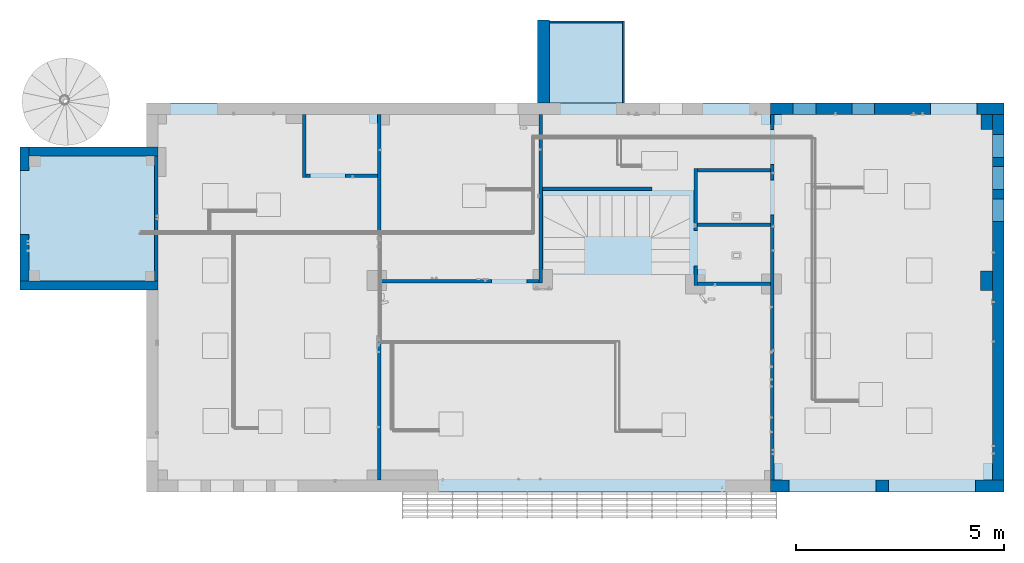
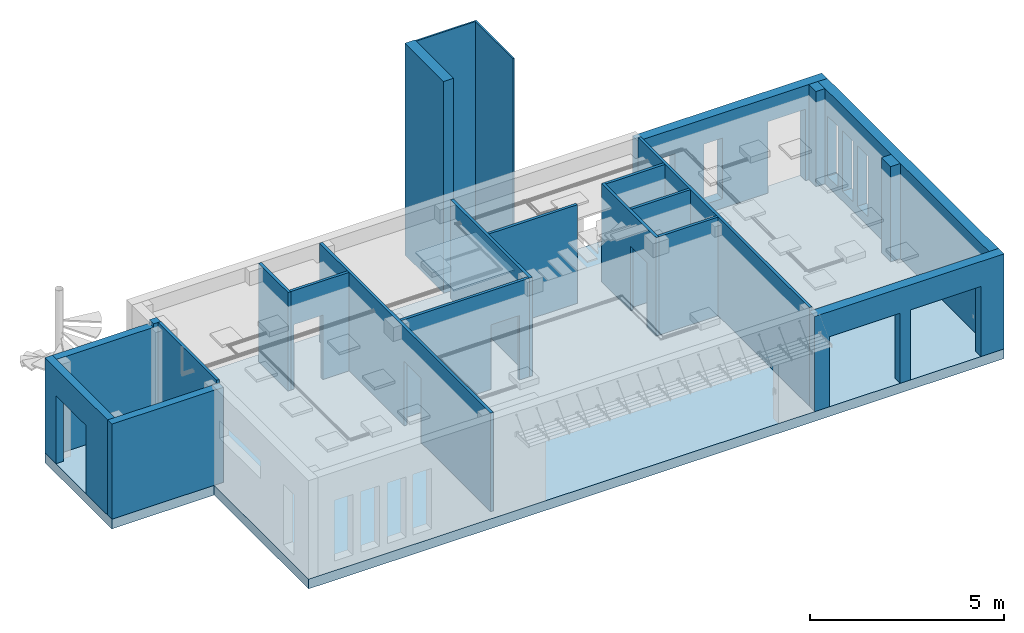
# One storey, part 2 of 24: 21 walls, 2 columns, 2 slabs, 16 openings.
"""IFC2X3 building model written with IfcOpenShell, lengths in millimetres."""

from ifc_helpers import new_model, entity, si_unit, converted_unit, derived_unit, direction, frame, frame_2d, origin, origin_2d_with_axis, place, context, subcontext, project, spatial, polyline, rectangle, outline, extrude, source, transform, mapped, material, layer, layer_set, layer_usage, type_object, type_shapes, element, save


model = new_model("IFC2X3")

# Units and contexts
model_context = context("Model", 3, precision=0.01, world=origin(), true_north=direction((6.123031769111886e-17, 1.0)))
body_context = subcontext(model_context, "Body", "Model", "MODEL_VIEW")
ifc_project = project(units=[si_unit("LENGTHUNIT", "METRE", prefix="MILLI"), si_unit("AREAUNIT", "SQUARE_METRE"), si_unit("VOLUMEUNIT", "CUBIC_METRE"), converted_unit("PLANEANGLEUNIT", "DEGREE", entity("IfcRatioMeasure", 0.017453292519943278), si_unit("PLANEANGLEUNIT", "RADIAN"), dimensions=[0, 0, 0, 0, 0, 0, 0]), si_unit("MASSUNIT", "GRAM", prefix="KILO"), derived_unit("MASSDENSITYUNIT", [(si_unit("MASSUNIT", "GRAM", prefix="KILO"), 1), (si_unit("LENGTHUNIT", "METRE"), -3)]), derived_unit("MOMENTOFINERTIAUNIT", [(si_unit("LENGTHUNIT", "METRE"), 4)]), si_unit("TIMEUNIT", "SECOND"), si_unit("FREQUENCYUNIT", "HERTZ"), si_unit("THERMODYNAMICTEMPERATUREUNIT", "DEGREE_CELSIUS"), derived_unit("THERMALTRANSMITTANCEUNIT", [(si_unit("MASSUNIT", "GRAM", prefix="KILO"), 1), (si_unit("THERMODYNAMICTEMPERATUREUNIT", "KELVIN"), -1), (si_unit("TIMEUNIT", "SECOND"), -3)]), derived_unit("VOLUMETRICFLOWRATEUNIT", [(si_unit("LENGTHUNIT", "METRE"), 3), (si_unit("TIMEUNIT", "SECOND"), -1)]), derived_unit("MASSFLOWRATEUNIT", [(si_unit("MASSUNIT", "GRAM", prefix="KILO"), 1), (si_unit("TIMEUNIT", "SECOND"), -1)]), derived_unit("ROTATIONALFREQUENCYUNIT", [(si_unit("TIMEUNIT", "SECOND"), -1)]), si_unit("ELECTRICCURRENTUNIT", "AMPERE"), si_unit("ELECTRICVOLTAGEUNIT", "VOLT"), si_unit("POWERUNIT", "WATT"), si_unit("FORCEUNIT", "NEWTON", prefix="KILO"), si_unit("ILLUMINANCEUNIT", "LUX"), si_unit("LUMINOUSFLUXUNIT", "LUMEN"), si_unit("LUMINOUSINTENSITYUNIT", "CANDELA"), derived_unit("USERDEFINED", [(si_unit("MASSUNIT", "GRAM", prefix="KILO"), -1), (si_unit("LENGTHUNIT", "METRE"), -2), (si_unit("TIMEUNIT", "SECOND"), 3), (si_unit("LUMINOUSFLUXUNIT", "LUMEN"), 1)]), derived_unit("SOUNDPOWERUNIT", [(si_unit("MASSUNIT", "GRAM", prefix="KILO"), 1), (si_unit("LENGTHUNIT", "METRE"), 2), (si_unit("TIMEUNIT", "SECOND"), -3)]), derived_unit("SOUNDPRESSUREUNIT", [(si_unit("MASSUNIT", "GRAM", prefix="KILO"), 1), (si_unit("LENGTHUNIT", "METRE"), -1), (si_unit("TIMEUNIT", "SECOND"), -2)]), derived_unit("LINEARVELOCITYUNIT", [(si_unit("LENGTHUNIT", "METRE"), 1), (si_unit("TIMEUNIT", "SECOND"), -1)]), si_unit("PRESSUREUNIT", "PASCAL"), derived_unit("USERDEFINED", [(si_unit("LENGTHUNIT", "METRE"), -2), (si_unit("MASSUNIT", "GRAM", prefix="KILO"), 1), (si_unit("TIMEUNIT", "SECOND"), -2)]), derived_unit("LINEARFORCEUNIT", [(si_unit("MASSUNIT", "GRAM", prefix="KILO"), 1), (si_unit("LENGTHUNIT", "METRE"), 1), (si_unit("TIMEUNIT", "SECOND"), -2), (si_unit("LENGTHUNIT", "METRE"), -1)]), derived_unit("PLANARFORCEUNIT", [(si_unit("MASSUNIT", "GRAM", prefix="KILO"), 1), (si_unit("LENGTHUNIT", "METRE"), 1), (si_unit("TIMEUNIT", "SECOND"), -2), (si_unit("LENGTHUNIT", "METRE"), -2)])], contexts=[model_context])

# Site, building, storey
site_placement = place(None, origin())
site = spatial("IfcSite", under=ifc_project, at=site_placement, Name="Default", CompositionType="ELEMENT")
building_placement = place(site_placement, origin())
building = spatial("IfcBuilding", under=site, at=building_placement, CompositionType="ELEMENT")
storey_placement = place(building_placement, origin())
storey = spatial("IfcBuildingStorey", under=building, at=storey_placement, Name="Level 1", CompositionType="ELEMENT", Elevation=0.0)

# Columns
ifc_material_1 = material(Name="FIBRAN gyps SUPER")
column_type_1 = type_object("IfcColumnType", Name="M_Rectangular Column:475 x 475mm 32126:475 x 475mm 32126 : M_Rectangular Column:475 x 475mm 32126", PredefinedType="COLUMN", material=ifc_material_1)
shared_shape_1 = source(origin(), body_context, "Body", "SweptSolid", [
    extrude(rectangle(XDim=366.6241435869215, YDim=270.4189925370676, at=frame_2d((2.7000623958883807e-13, 1.0800249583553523e-12), x_axis=(1.0, 0.0))), frame((10812.1303359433, 4827.84944147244, 0.0), z_axis=(0.0, 0.0, 1.0), x_axis=(0.0, -1.0, 0.0)), (0.0, 0.0, 1.0), 2985.0),
])
type_shapes(column_type_1, [shared_shape_1])
column_1_placement = place(storey_placement, origin())
element("IfcColumn", 1, at=column_1_placement, inside=storey, type_object=column_type_1, material=ifc_material_1, Name="M_Rectangular Column:475 x 475mm", ObjectType="M_Rectangular Column:475 x 475mm", context=body_context, shape_type="MappedRepresentation", body=[
    mapped(shared_shape_1, transform((0.0, 0.0, 0.0), scale=1.0)),
])
column_type_2 = type_object("IfcColumnType", Name="M_Rectangular Column:475 x 475mm 32096:475 x 475mm 32096 : M_Rectangular Column:475 x 475mm 32096", PredefinedType="COLUMN", material=ifc_material_1)
shared_shape_2 = source(origin(), body_context, "Body", "SweptSolid", [
    extrude(rectangle(XDim=475.00000000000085, YDim=290.4189925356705, at=origin_2d_with_axis()), frame((10802.130335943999, 1004.037369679, 0.0), z_axis=(0.0, 0.0, 1.0), x_axis=(0.0, -1.0, 0.0)), (0.0, 0.0, 1.0), 2985.0),
])
type_shapes(column_type_2, [shared_shape_2])
column_2_placement = place(storey_placement, origin())
element("IfcColumn", 2, at=column_2_placement, inside=storey, type_object=column_type_2, material=ifc_material_1, Name="M_Rectangular Column:475 x 475mm", ObjectType="M_Rectangular Column:475 x 475mm", context=body_context, shape_type="MappedRepresentation", body=[
    mapped(shared_shape_2, transform((0.0, 0.0, 0.0), scale=1.0)),
])

# Slabs
ifc_material_2 = material(Name="Ceramic tiles")
ifc_layer_1 = layer(ifc_material_2, 5.0)
ifc_material_3 = material(Name="cement mortar")
ifc_layer_2 = layer(ifc_material_3, 50.0)
ifc_material_4 = material(Name="Reinforced Concrete 2%")
ifc_layer_3 = layer(ifc_material_4, 150.0)
ifc_material_5 = material(Name="FIBRAN xps seismic 400")
ifc_layer_4 = layer(ifc_material_5, 50.0)
ifc_layer_5 = layer(ifc_material_5, 50.0)
ifc_layer_set_1 = layer_set([ifc_layer_1, ifc_layer_2, ifc_layer_3, ifc_layer_4, ifc_layer_5], Name="Floor:Floor:Floor:Concrete-Domestic My floor")
ifc_layer_usage_1 = layer_usage(ifc_layer_set_1, "AXIS3", "POSITIVE", 0.0)
slab_type_1 = type_object("IfcSlabType", Name="Floor:Floor:Floor:Concrete-Domestic My floor", PredefinedType="FLOOR", material=ifc_layer_set_1)
slab_1_placement = place(storey_placement, origin())
element("IfcSlab", 3, at=slab_1_placement, inside=storey, type_object=slab_type_1, material=ifc_layer_usage_1, Name="Floor:Floor:Floor:Concrete-Domestic My floor", ObjectType="Floor:Floor:Floor:Concrete-Domestic My floor", PredefinedType="FLOOR", context=body_context, shape_type="SweptSolid", body=[
    extrude(outline(polyline([(-772.1288845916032, -7443.206044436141), (2671.3866537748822, -7443.206044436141), (2671.3866537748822, -4403.156770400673), (3733.8711154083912, -4403.156770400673), (3733.8711154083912, 16249.519585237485), (-5633.128884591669, 16249.51958523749), (-5633.128884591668, -4403.156770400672), (-772.1288845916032, -4403.156770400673), (-772.1288845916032, -7443.206044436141)])), frame((-5022.179753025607, 1557.2903978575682, 0.0), z_axis=(0.0, 0.0, -1.0), x_axis=(0.0, 1.0, 0.0)), (0.0, 0.0, 1.0), 305.00000000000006),
])
ifc_material_6 = material(Name="Exterior Tread Stair")
ifc_layer_6 = layer(ifc_material_6, 50.0)
ifc_layer_set_2 = layer_set([ifc_layer_6], Name="Floor:Floor:Floor:My metal deck floor")
ifc_layer_usage_2 = layer_usage(ifc_layer_set_2, "AXIS3", "POSITIVE", 0.0)
slab_type_2 = type_object("IfcSlabType", Name="Floor:Floor:Floor:My metal deck floor", PredefinedType="FLOOR", material=ifc_layer_set_2)
slab_2_placement = place(storey_placement, origin())
element("IfcSlab", 4, at=slab_2_placement, inside=storey, type_object=slab_type_2, material=ifc_layer_usage_2, Name="Floor:Floor:Floor:My metal deck floor", ObjectType="Floor:Floor:Floor:My metal deck floor", PredefinedType="FLOOR", context=body_context, shape_type="SweptSolid", body=[
    extrude(rectangle(XDim=1972.3825425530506, YDim=1805.5917254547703, at=frame_2d((0.0, -1.7053025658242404e-13), x_axis=(1.0, 0.0))), frame((1192.3273607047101, 6277.35278454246, 0.0), z_axis=(0.0, 0.0, -1.0), x_axis=(0.0, 1.0, 0.0)), (0.0, 0.0, 1.0), 50.0),
])

# Wall, openings
ifc_material_7 = material(Name="Finishing Coating")
ifc_layer_7 = layer(ifc_material_7, 10.0)
ifc_layer_8 = layer(ifc_material_7, 10.0)
ifc_material_8 = material(Name="FIBRAN GEO BP Etics")
ifc_layer_9 = layer(ifc_material_8, 160.0)
ifc_material_9 = material(Name="Lightweight Perlite Concrete")
ifc_layer_10 = layer(ifc_material_9, 90.0)
ifc_layer_11 = layer(ifc_material_7, 10.0)
ifc_layer_set_3 = layer_set([ifc_layer_7, ifc_layer_8, ifc_layer_9, ifc_layer_10, ifc_layer_11], Name="Basic Wall:Basic Wall:Basic Wall:My exterior wall 280mm")
ifc_layer_usage_3 = layer_usage(ifc_layer_set_3, "AXIS2", "NEGATIVE", 140.0)
wall_type_1 = type_object("IfcWallType", Name="Basic Wall:Basic Wall:Basic Wall:My exterior wall 280mm", PredefinedType="STANDARD", material=ifc_layer_set_3)
wall_1_placement = place(storey_placement, frame((5605.71779323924, 5151.16151326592, 0.0)))
wall_1 = element("IfcWallStandardCase", 5, at=wall_1_placement, inside=storey, type_object=wall_type_1, material=ifc_layer_usage_3, Name="Basic Wall:My exterior wall 280mm", ObjectType="Basic Wall:My exterior wall 280mm", context=body_context, shape_type="SweptSolid", body=[
    extrude(rectangle(XDim=5621.622038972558, YDim=280.0000000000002, at=frame_2d((2810.811019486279, -5.400124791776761e-13), x_axis=(1.0, 0.0))), origin(), (0.0, 0.0, 1.0), 2985.0),
])
opening_1_placement = place(wall_1_placement, origin())
element("IfcOpeningElement", 6, at=opening_1_placement, cuts=wall_1, Name="Basic Wall:My exterior wall 280mm", ObjectType="Opening", context=body_context, shape_type="SweptSolid", body=[
    extrude(rectangle(XDim=2241.6, YDim=1121.6000000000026, at=frame_2d((0.0, -1.0800249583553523e-12), x_axis=(1.0, 0.0))), frame((4412.314564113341, -140.0, 1120.8), z_axis=(0.0, 1.0, 0.0), x_axis=(0.0, 0.0, -1.0)), (0.0, 0.0, 1.0), 279.99999999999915),
])
opening_2_placement = place(wall_1_placement, origin())
element("IfcOpeningElement", 7, at=opening_2_placement, cuts=wall_1, Name="Basic Wall:My exterior wall 280mm", ObjectType="Opening", context=body_context, shape_type="SweptSolid", body=[
    extrude(rectangle(XDim=1900.0000000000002, YDim=549.9999999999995, at=frame_2d((5.684341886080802e-14, -5.400124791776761e-13), x_axis=(1.0, 0.0))), frame((816.0, -140.0, 1250.0), z_axis=(0.0, 1.0, 0.0), x_axis=(0.0, 0.0, -1.0)), (0.0, 0.0, 1.0), 279.99999999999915),
])
opening_3_placement = place(wall_1_placement, origin())
element("IfcOpeningElement", 8, at=opening_3_placement, cuts=wall_1, Name="Basic Wall:My exterior wall 280mm", ObjectType="Opening", context=body_context, shape_type="SweptSolid", body=[
    extrude(rectangle(XDim=1900.0000000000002, YDim=549.9999999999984, at=frame_2d((5.684341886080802e-14, 0.0), x_axis=(1.0, 0.0))), frame((2233.137235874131, -140.0, 1250.0), z_axis=(0.0, 1.0, 0.0), x_axis=(0.0, 0.0, -1.0)), (0.0, 0.0, 1.0), 279.99999999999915),
])

ifc_layer_usage_4 = layer_usage(ifc_layer_set_3, "AXIS2", "NEGATIVE", 140.0)
wall_2_placement = place(storey_placement, frame((11227.339832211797, -3935.838486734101, 0.0), z_axis=(0.0, 0.0, 1.0), x_axis=(-1.0, 0.0, 0.0)))
wall_2 = element("IfcWallStandardCase", 9, at=wall_2_placement, inside=storey, type_object=wall_type_1, material=ifc_layer_usage_4, Name="Basic Wall:My exterior wall 280mm", ObjectType="Basic Wall:My exterior wall 280mm", context=body_context, shape_type="SweptSolid", body=[
    extrude(rectangle(XDim=5621.622038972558, YDim=280.0000000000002, at=frame_2d((2810.811019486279, 0.0), x_axis=(1.0, 0.0))), origin(), (0.0, 0.0, 1.0), 2985.0),
])
opening_4_placement = place(wall_2_placement, origin())
element("IfcOpeningElement", 10, at=opening_4_placement, cuts=wall_2, Name="Basic Wall:My exterior wall 280mm", ObjectType="Opening", context=body_context, shape_type="SweptSolid", body=[
    extrude(rectangle(XDim=2200.0, YDim=2100.0, at=frame_2d((0.0, -5.684341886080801e-13), x_axis=(1.0, 0.0))), frame((4131.918203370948, -140.0, 1100.0), z_axis=(0.0, 1.0, 0.0), x_axis=(0.0, 0.0, -1.0)), (0.0, 0.0, 1.0), 280.0000000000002),
])
opening_5_placement = place(wall_2_placement, origin())
element("IfcOpeningElement", 11, at=opening_5_placement, cuts=wall_2, Name="Basic Wall:My exterior wall 280mm", ObjectType="Opening", context=body_context, shape_type="SweptSolid", body=[
    extrude(rectangle(XDim=2200.0, YDim=2100.0, at=frame_2d((0.0, -5.684341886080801e-13), x_axis=(1.0, 0.0))), frame((1731.9182033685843, -140.0, 1100.0), z_axis=(0.0, 1.0, 0.0), x_axis=(0.0, 0.0, -1.0)), (0.0, 0.0, 1.0), 280.0000000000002),
])

ifc_layer_usage_5 = layer_usage(ifc_layer_set_3, "AXIS2", "NEGATIVE", 140.0)
wall_3_placement = place(storey_placement, frame((11087.3398322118, -3795.8384867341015, 0.0), z_axis=(0.0, 0.0, 1.0), x_axis=(0.0, 1.0, 0.0)))
wall_3 = element("IfcWallStandardCase", 12, at=wall_3_placement, inside=storey, type_object=wall_type_1, material=ifc_layer_usage_5, Name="Basic Wall:My exterior wall 280mm", ObjectType="Basic Wall:My exterior wall 280mm", context=body_context, shape_type="SweptSolid", body=[
    extrude(rectangle(XDim=8807.00000000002, YDim=279.99999999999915, at=frame_2d((4403.50000000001, 1.0800249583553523e-12), x_axis=(-1.0, 0.0))), origin(), (0.0, 0.0, 1.0), 2985.0),
])
opening_6_placement = place(wall_3_placement, origin())
element("IfcOpeningElement", 13, at=opening_6_placement, cuts=wall_3, Name="Basic Wall:My exterior wall 280mm", ObjectType="Opening", context=body_context, shape_type="SweptSolid", body=[
    extrude(rectangle(XDim=1900.0000000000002, YDim=550.0000000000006, at=frame_2d((5.684341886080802e-14, 0.0), x_axis=(1.0, 0.0))), frame((6497.876858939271, -140.0, 1250.0), z_axis=(0.0, 1.0, 0.0), x_axis=(0.0, 0.0, -1.0)), (0.0, 0.0, 1.0), 280.0000000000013),
])
opening_7_placement = place(wall_3_placement, origin())
element("IfcOpeningElement", 14, at=opening_7_placement, cuts=wall_3, Name="Basic Wall:My exterior wall 280mm", ObjectType="Opening", context=body_context, shape_type="SweptSolid", body=[
    extrude(rectangle(XDim=1900.0000000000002, YDim=550.0000000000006, at=frame_2d((5.684341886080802e-14, 0.0), x_axis=(1.0, 0.0))), frame((7272.876824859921, -140.0, 1250.0), z_axis=(0.0, 1.0, 0.0), x_axis=(0.0, 0.0, -1.0)), (0.0, 0.0, 1.0), 280.0000000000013),
])
opening_8_placement = place(wall_3_placement, origin())
element("IfcOpeningElement", 15, at=opening_8_placement, cuts=wall_3, Name="Basic Wall:My exterior wall 280mm", ObjectType="Opening", context=body_context, shape_type="SweptSolid", body=[
    extrude(rectangle(XDim=1900.0000000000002, YDim=549.9999999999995, at=frame_2d((5.684341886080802e-14, 0.0), x_axis=(1.0, 0.0))), frame((8049.574508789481, -140.0, 1250.0), z_axis=(0.0, 1.0, 0.0), x_axis=(0.0, 0.0, -1.0)), (0.0, 0.0, 1.0), 280.0000000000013),
])

# Wall, opening
ifc_layer_12 = layer(ifc_material_7, 10.0)
ifc_layer_13 = layer(ifc_material_7, 10.0)
ifc_layer_14 = layer(ifc_material_8, 100.0)
ifc_layer_15 = layer(ifc_material_9, 90.0)
ifc_layer_16 = layer(ifc_material_7, 10.0)
ifc_layer_set_4 = layer_set([ifc_layer_12, ifc_layer_13, ifc_layer_14, ifc_layer_15, ifc_layer_16], Name="Basic Wall:Basic Wall:Basic Wall:My exterior wall HALL 220 mm")
ifc_layer_usage_6 = layer_usage(ifc_layer_set_4, "AXIS2", "NEGATIVE", 110.0)
wall_type_2 = type_object("IfcWallType", Name="Basic Wall:Basic Wall:Basic Wall:My exterior wall HALL 220 mm", PredefinedType="STANDARD", material=ifc_layer_set_4)
wall_4_placement = place(storey_placement, frame((-12245.385797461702, 4118.67705163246, 0.0)))
wall_4 = element("IfcWallStandardCase", 16, at=wall_4_placement, inside=storey, type_object=wall_type_2, material=ifc_layer_usage_6, Name="Basic Wall:My exterior wall HALL 220 mm", ObjectType="Basic Wall:My exterior wall HALL 220 mm", context=body_context, shape_type="SweptSolid", body=[
    extrude(rectangle(XDim=3100.049274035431, YDim=219.9999999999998, at=frame_2d((1550.0246370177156, 0.0), x_axis=(-1.0, 0.0))), origin(), (0.0, 0.0, 1.0), 3095.0000000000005),
])
opening_9_placement = place(wall_4_placement, origin())
element("IfcOpeningElement", 17, at=opening_9_placement, cuts=wall_4, Name="Basic Wall:My exterior wall HALL 220 mm", ObjectType="Opening", context=body_context, shape_type="SweptSolid", body=[
    extrude(rectangle(XDim=110.00000000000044, YDim=2990.0492740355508, at=frame_2d((-2.7000623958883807e-13, 0.0), x_axis=(1.0, 0.0))), frame((1385.0246370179, -110.0, 3040.0), z_axis=(0.0, 1.0, 0.0), x_axis=(0.0, 0.0, -1.0)), (0.0, 0.0, 1.0), 219.9999999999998),
])

ifc_layer_usage_7 = layer_usage(ifc_layer_set_4, "AXIS2", "NEGATIVE", 110.0)
wall_5_placement = place(storey_placement, frame((-12355.3857974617, 1005.1615132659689, 0.0), z_axis=(0.0, 0.0, 1.0), x_axis=(0.0, 1.0, 0.0)))
wall_5 = element("IfcWallStandardCase", 18, at=wall_5_placement, inside=storey, type_object=wall_type_2, material=ifc_layer_usage_7, Name="Basic Wall:My exterior wall HALL 220 mm", ObjectType="Basic Wall:My exterior wall HALL 220 mm", context=body_context, shape_type="SweptSolid", body=[
    extrude(rectangle(XDim=3223.51553836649, YDim=219.9999999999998, at=frame_2d((1611.7577691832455, 1.0800249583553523e-12), x_axis=(1.0, 0.0))), origin(), (0.0, 0.0, 1.0), 2985.0000000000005),
])
opening_10_placement = place(wall_5_placement, origin())
element("IfcOpeningElement", 19, at=opening_10_placement, cuts=wall_5, Name="Basic Wall:My exterior wall HALL 220 mm", ObjectType="Opening", context=body_context, shape_type="SweptSolid", body=[
    extrude(rectangle(XDim=2139.99999999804, YDim=1540.0000000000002, at=frame_2d((0.0, 2.2737367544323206e-13), x_axis=(1.0, 0.0))), frame((1881.7577691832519, -110.0, 1070.0), z_axis=(0.0, 1.0, 0.0), x_axis=(0.0, 0.0, -1.0)), (0.0, 0.0, 1.0), 220.00000000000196),
])

# Wall
ifc_layer_usage_8 = layer_usage(ifc_layer_set_4, "AXIS2", "NEGATIVE", 110.0)
wall_6_placement = place(storey_placement, frame((-9145.33652342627, 895.161513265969, 0.0), z_axis=(0.0, 0.0, 1.0), x_axis=(-1.0, 0.0, 0.0)))
element("IfcWallStandardCase", 20, at=wall_6_placement, inside=storey, type_object=wall_type_2, material=ifc_layer_usage_8, Name="Basic Wall:My exterior wall HALL 220 mm", ObjectType="Basic Wall:My exterior wall HALL 220 mm", context=body_context, shape_type="SweptSolid", body=[
    extrude(rectangle(XDim=3320.049274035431, YDim=220.00000000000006, at=frame_2d((1660.0246370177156, 0.0), x_axis=(-1.0, 0.0))), origin(), (0.0, 0.0, 1.0), 2985.0),
])

# Wall, opening
ifc_material_10 = material(Name="Steel, Paint Finish, Ivory, Matte")
ifc_layer_17 = layer(ifc_material_10, 1.0)
ifc_layer_18 = layer(ifc_material_1, 15.0)
ifc_material_11 = material(Name="FIBRAN GEO B-570")
ifc_layer_19 = layer(ifc_material_11, 50.0)
ifc_layer_20 = layer(ifc_material_1, 15.0)
ifc_layer_21 = layer(ifc_material_10, 1.0)
ifc_layer_set_5 = layer_set([ifc_layer_17, ifc_layer_18, ifc_layer_19, ifc_layer_20, ifc_layer_21], Name="Basic Wall:Basic Wall:Basic Wall:My interior wall 80mm")
ifc_layer_usage_9 = layer_usage(ifc_layer_set_5, "AXIS2", "NEGATIVE", 40.99999999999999)
wall_type_3 = type_object("IfcWallType", Name="Basic Wall:Basic Wall:Basic Wall:My interior wall 80mm", PredefinedType="STANDARD", material=ifc_layer_set_5)
wall_7_placement = place(storey_placement, frame((-5583.45050152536, 3535.11917681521, 0.0)))
wall_7 = element("IfcWallStandardCase", 21, at=wall_7_placement, inside=storey, type_object=wall_type_3, material=ifc_layer_usage_9, Name="Basic Wall:My interior wall 80mm", ObjectType="Basic Wall:My interior wall 80mm", context=body_context, shape_type="SweptSolid", body=[
    extrude(rectangle(XDim=1726.0947227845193, YDim=81.99999999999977, at=frame_2d((863.0473613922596, 0.0), x_axis=(1.0, 0.0))), origin(), (0.0, 0.0, 1.0), 3095.0000000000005),
])
opening_11_placement = place(wall_7_placement, origin())
element("IfcOpeningElement", 22, at=opening_11_placement, cuts=wall_7, Name="Basic Wall:My interior wall 80mm", ObjectType="Opening", context=body_context, shape_type="SweptSolid", body=[
    extrude(rectangle(XDim=2025.0000000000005, YDim=849.9999999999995, at=origin_2d_with_axis()), frame((525.0, -41.0, 1012.5000000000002), z_axis=(0.0, 1.0, 0.0), x_axis=(0.0, 0.0, -1.0)), (0.0, 0.0, 1.0), 81.99999999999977),
])

ifc_layer_usage_10 = layer_usage(ifc_layer_set_5, "AXIS2", "NEGATIVE", 40.99999999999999)
wall_8_placement = place(storey_placement, frame((-3816.35577874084, 5011.161513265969, 0.0), z_axis=(0.0, 0.0, 1.0), x_axis=(0.0, -1.0, 0.0)))
wall_8 = element("IfcWallStandardCase", 23, at=wall_8_placement, inside=storey, type_object=wall_type_3, material=ifc_layer_usage_10, Name="Basic Wall:My interior wall 80mm", ObjectType="Basic Wall:My interior wall 80mm", context=body_context, shape_type="SweptSolid", body=[
    extrude(rectangle(XDim=8807.0, YDim=81.99999999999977, at=frame_2d((4403.5, 0.0), x_axis=(1.0, 0.0))), origin(), (0.0, 0.0, 1.0), 3095.0000000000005),
])
opening_12_placement = place(wall_8_placement, origin())
element("IfcOpeningElement", 24, at=opening_12_placement, cuts=wall_8, Name="Basic Wall:My interior wall 80mm", ObjectType="Opening", context=body_context, shape_type="SweptSolid", body=[
    extrude(rectangle(XDim=2025.0000000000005, YDim=849.9999999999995, at=origin_2d_with_axis()), frame((4786.794266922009, -41.0, 1012.5000000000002), z_axis=(0.0, 1.0, 0.0), x_axis=(0.0, 0.0, -1.0)), (0.0, 0.0, 1.0), 81.99999999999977),
])

# Wall, openings
ifc_layer_usage_11 = layer_usage(ifc_layer_set_5, "AXIS2", "NEGATIVE", 40.99999999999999)
wall_9_placement = place(storey_placement, frame((5646.71779323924, -3795.8384867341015, 0.0), z_axis=(0.0, 0.0, 1.0), x_axis=(0.0, 1.0, 0.0)))
wall_9 = element("IfcWallStandardCase", 25, at=wall_9_placement, inside=storey, type_object=wall_type_3, material=ifc_layer_usage_11, Name="Basic Wall:My interior wall 80mm", ObjectType="Basic Wall:My interior wall 80mm", context=body_context, shape_type="SweptSolid", body=[
    extrude(rectangle(XDim=8807.00000000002, YDim=81.99999999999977, at=frame_2d((4403.50000000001, 5.435651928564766e-13), x_axis=(1.0, 0.0))), origin(), (0.0, 0.0, 1.0), 3095.0000000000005),
])
opening_13_placement = place(wall_9_placement, origin())
element("IfcOpeningElement", 26, at=opening_13_placement, cuts=wall_9, Name="Basic Wall:My interior wall 80mm", ObjectType="Opening", context=body_context, shape_type="SweptSolid", body=[
    extrude(rectangle(XDim=2025.0000000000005, YDim=850.0000000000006, at=origin_2d_with_axis()), frame((8023.978107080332, -41.0, 1012.5000000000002), z_axis=(0.0, 1.0, 0.0), x_axis=(0.0, 0.0, -1.0)), (0.0, 0.0, 1.0), 82.00000000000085),
])
opening_14_placement = place(wall_9_placement, origin())
element("IfcOpeningElement", 27, at=opening_14_placement, cuts=wall_9, Name="Basic Wall:My interior wall 80mm", ObjectType="Opening", context=body_context, shape_type="SweptSolid", body=[
    extrude(rectangle(XDim=2025.0000000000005, YDim=849.9999999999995, at=origin_2d_with_axis()), frame((6804.237150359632, -41.0, 1012.5000000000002), z_axis=(0.0, 1.0, 0.0), x_axis=(0.0, 0.0, -1.0)), (0.0, 0.0, 1.0), 82.00000000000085),
])

# Wall, opening
ifc_layer_usage_12 = layer_usage(ifc_layer_set_5, "AXIS2", "NEGATIVE", 40.99999999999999)
wall_10_placement = place(storey_placement, frame((-3775.35577874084, 990.367246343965, 0.0)))
wall_10 = element("IfcWallStandardCase", 28, at=wall_10_placement, inside=storey, type_object=wall_type_3, material=ifc_layer_usage_12, Name="Basic Wall:My interior wall 80mm", ObjectType="Basic Wall:My interior wall 80mm", context=body_context, shape_type="SweptSolid", body=[
    extrude(rectangle(XDim=3811.8932305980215, YDim=82.00000000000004, at=frame_2d((1905.9466152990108, 0.0), x_axis=(1.0, 0.0))), origin(), (0.0, 0.0, 1.0), 3095.0000000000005),
])
opening_15_placement = place(wall_10_placement, origin())
element("IfcOpeningElement", 29, at=opening_15_placement, cuts=wall_10, Name="Basic Wall:My interior wall 80mm", ObjectType="Opening", context=body_context, shape_type="SweptSolid", body=[
    extrude(rectangle(XDim=2025.0000000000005, YDim=849.9999999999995, at=origin_2d_with_axis()), frame((3086.89323059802, -41.0, 1012.5000000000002), z_axis=(0.0, 1.0, 0.0), x_axis=(0.0, 0.0, -1.0)), (0.0, 0.0, 1.0), 82.00000000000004),
])

ifc_layer_usage_13 = layer_usage(ifc_layer_set_5, "AXIS2", "NEGATIVE", 40.99999999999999)
wall_11_placement = place(storey_placement, frame((3805.50764682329, 3703.1396203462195, 0.0), z_axis=(0.0, 0.0, 1.0), x_axis=(0.0, -1.0, 0.0)))
wall_11 = element("IfcWallStandardCase", 30, at=wall_11_placement, inside=storey, type_object=wall_type_3, material=ifc_layer_usage_13, Name="Basic Wall:My interior wall 80mm", ObjectType="Basic Wall:My interior wall 80mm", context=body_context, shape_type="SweptSolid", body=[
    extrude(rectangle(XDim=2810.715101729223, YDim=81.99999999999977, at=frame_2d((1405.3575508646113, 0.0), x_axis=(1.0, 0.0))), origin(), (0.0, 0.0, 1.0), 3095.0000000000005),
])
opening_16_placement = place(wall_11_placement, origin())
element("IfcOpeningElement", 31, at=opening_16_placement, cuts=wall_11, Name="Basic Wall:My interior wall 80mm", ObjectType="Opening", context=body_context, shape_type="SweptSolid", body=[
    extrude(rectangle(XDim=2025.0000000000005, YDim=849.9999999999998, at=frame_2d((0.0, 1.1368683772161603e-13), x_axis=(1.0, 0.0))), frame((1914.48191344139, -41.0, 1012.5000000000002), z_axis=(0.0, 1.0, 0.0), x_axis=(0.0, 0.0, -1.0)), (0.0, 0.0, 1.0), 81.99999999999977),
])

# Walls
ifc_layer_usage_14 = layer_usage(ifc_layer_set_5, "AXIS2", "NEGATIVE", 40.99999999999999)
wall_12_placement = place(storey_placement, frame((-5624.45050152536, 5011.161513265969, 0.0), z_axis=(0.0, 0.0, 1.0), x_axis=(0.0, -1.0, 0.0)))
element("IfcWallStandardCase", 32, at=wall_12_placement, inside=storey, type_object=wall_type_3, material=ifc_layer_usage_14, Name="Basic Wall:My interior wall 80mm", ObjectType="Basic Wall:My interior wall 80mm", context=body_context, shape_type="SweptSolid", body=[
    extrude(rectangle(XDim=1517.042336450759, YDim=82.00000000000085, at=frame_2d((758.5211682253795, 0.0), x_axis=(-1.0, 0.0))), origin(), (0.0, 0.0, 1.0), 3095.0000000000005),
])
ifc_layer_usage_15 = layer_usage(ifc_layer_set_5, "AXIS2", "NEGATIVE", 40.99999999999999)
wall_13_placement = place(storey_placement, frame((77.53745185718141, 949.367246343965, 0.0), z_axis=(0.0, 0.0, 1.0), x_axis=(0.0, 1.0, 0.0)))
element("IfcWallStandardCase", 33, at=wall_13_placement, inside=storey, type_object=wall_type_3, material=ifc_layer_usage_15, Name="Basic Wall:My interior wall 80mm", ObjectType="Basic Wall:My interior wall 80mm", context=body_context, shape_type="SweptSolid", body=[
    extrude(rectangle(XDim=4061.7942669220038, YDim=82.0, at=frame_2d((2030.8971334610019, 0.0), x_axis=(-1.0, 0.0))), origin(), (0.0, 0.0, 1.0), 3095.000000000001),
])
ifc_layer_usage_16 = layer_usage(ifc_layer_set_5, "AXIS2", "NEGATIVE", 40.99999999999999)
wall_14_placement = place(storey_placement, frame((5605.71779323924, 3662.13962034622, 0.0), z_axis=(0.0, 0.0, 1.0), x_axis=(-1.0, 0.0, 0.0)))
element("IfcWallStandardCase", 34, at=wall_14_placement, inside=storey, type_object=wall_type_3, material=ifc_layer_usage_16, Name="Basic Wall:My interior wall 80mm", ObjectType="Basic Wall:My interior wall 80mm", context=body_context, shape_type="SweptSolid", body=[
    extrude(rectangle(XDim=1759.2101464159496, YDim=81.99999999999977, at=frame_2d((879.6050732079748, 0.0), x_axis=(-1.0, 0.0))), origin(), (0.0, 0.0, 1.0), 3095.0000000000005),
])
ifc_layer_usage_17 = layer_usage(ifc_layer_set_5, "AXIS2", "NEGATIVE", 40.99999999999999)
wall_15_placement = place(storey_placement, frame((5605.71779323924, 933.424518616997, 0.0), z_axis=(0.0, 0.0, 1.0), x_axis=(-1.0, 0.0, 0.0)))
element("IfcWallStandardCase", 35, at=wall_15_placement, inside=storey, type_object=wall_type_3, material=ifc_layer_usage_17, Name="Basic Wall:My interior wall 80mm", ObjectType="Basic Wall:My interior wall 80mm", context=body_context, shape_type="SweptSolid", body=[
    extrude(rectangle(XDim=1759.2101464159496, YDim=82.00000000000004, at=frame_2d((879.6050732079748, 0.0), x_axis=(-1.0, 0.0))), origin(), (0.0, 0.0, 1.0), 3095.0000000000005),
])
ifc_layer_usage_18 = layer_usage(ifc_layer_set_5, "AXIS2", "NEGATIVE", 40.99999999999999)
wall_16_placement = place(storey_placement, frame((5605.71779323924, 2354.65770690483, 0.0), z_axis=(0.0, 0.0, 1.0), x_axis=(-1.0, 0.0, 0.0)))
element("IfcWallStandardCase", 36, at=wall_16_placement, inside=storey, type_object=wall_type_3, material=ifc_layer_usage_18, Name="Basic Wall:My interior wall 80mm", ObjectType="Basic Wall:My interior wall 80mm", context=body_context, shape_type="SweptSolid", body=[
    extrude(rectangle(XDim=1759.2101464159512, YDim=81.99999999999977, at=frame_2d((879.6050732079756, 0.0), x_axis=(-1.0, 0.0))), origin(), (0.0, 0.0, 1.0), 3095.0000000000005),
])
ifc_layer_usage_19 = layer_usage(ifc_layer_set_5, "AXIS2", "NEGATIVE", 40.99999999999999)
wall_17_placement = place(storey_placement, frame((2750.50764682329, 3225.1774283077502, 0.0), z_axis=(0.0, 0.0, 1.0), x_axis=(-1.0, 0.0, 0.0)))
element("IfcWallStandardCase", 37, at=wall_17_placement, inside=storey, type_object=wall_type_3, material=ifc_layer_usage_19, Name="Basic Wall:My interior wall 80mm", ObjectType="Basic Wall:My interior wall 80mm", context=body_context, shape_type="SweptSolid", body=[
    extrude(rectangle(XDim=2631.970194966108, YDim=81.99999999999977, at=frame_2d((1315.985097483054, 0.0), x_axis=(-1.0, 0.0))), origin(), (0.0, 0.0, 1.0), 3094.99999999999),
])
ifc_layer_usage_20 = layer_usage(ifc_layer_set_5, "AXIS2", "NEGATIVE", 40.99999999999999)
wall_18_placement = place(storey_placement, frame((-9186.33652342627, 1005.1615132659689, 0.0), z_axis=(0.0, 0.0, 1.0), x_axis=(0.0, 1.0, 0.0)))
element("IfcWallStandardCase", 38, at=wall_18_placement, inside=storey, type_object=wall_type_3, material=ifc_layer_usage_20, Name="Basic Wall:My interior wall 80mm", ObjectType="Basic Wall:My interior wall 80mm", context=body_context, shape_type="SweptSolid", body=[
    extrude(rectangle(XDim=3003.5155383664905, YDim=82.00000000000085, at=frame_2d((1501.7577691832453, 0.0), x_axis=(-1.0, 0.0))), origin(), (0.0, 0.0, 1.0), 3095.0000000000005),
])
ifc_material_12 = material(Name="Default Wall")
ifc_layer_22 = layer(ifc_material_12, 300.0)
ifc_layer_set_6 = layer_set([ifc_layer_22], Name="Basic Wall:Basic Wall:Basic Wall:Generic - 300mm")
ifc_layer_usage_21 = layer_usage(ifc_layer_set_6, "AXIS2", "NEGATIVE", 150.0)
wall_type_4 = type_object("IfcWallType", Name="Basic Wall:Basic Wall:Basic Wall:Generic - 300mm", PredefinedType="STANDARD", material=ifc_layer_set_6)
wall_19_placement = place(storey_placement, frame((139.531497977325, 5291.161513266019, 0.0), z_axis=(0.0, 0.0, 1.0), x_axis=(0.0, 1.0, 0.0)))
element("IfcWallStandardCase", 39, at=wall_19_placement, inside=storey, type_object=wall_type_4, material=ifc_layer_usage_21, Name="Basic Wall:Generic - 300mm", ObjectType="Basic Wall:Generic - 300mm", context=body_context, shape_type="SweptSolid", body=[
    extrude(rectangle(XDim=1992.9325425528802, YDim=300.0, at=frame_2d((996.4662712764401, 0.0), x_axis=(-1.0, 0.0))), origin(), (0.0, 0.0, 1.0), 6650.000000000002),
])
ifc_material_13 = material(Name="Glass, Clear Glazing")
ifc_layer_23 = layer(ifc_material_13, 50.0)
ifc_layer_set_7 = layer_set([ifc_layer_23], Name="Basic Wall:Basic Wall:Basic Wall:My glass wall")
ifc_layer_usage_22 = layer_usage(ifc_layer_set_7, "AXIS2", "NEGATIVE", 25.0)
wall_type_5 = type_object("IfcWallType", Name="Basic Wall:Basic Wall:Basic Wall:My glass wall", PredefinedType="STANDARD", material=ifc_layer_set_7)
wall_20_placement = place(storey_placement, frame((289.5314979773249, 7238.54405581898, 0.0)))
element("IfcWallStandardCase", 40, at=wall_20_placement, inside=storey, type_object=wall_type_5, material=ifc_layer_usage_22, Name="Basic Wall:My glass wall", ObjectType="Basic Wall:My glass wall", context=body_context, shape_type="SweptSolid", body=[
    extrude(rectangle(XDim=1755.5917254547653, YDim=49.99999999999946, at=frame_2d((877.7958627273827, 0.0), x_axis=(-1.0, 0.0))), origin(), (0.0, 0.0, 1.0), 6650.0),
])
ifc_layer_usage_23 = layer_usage(ifc_layer_set_7, "AXIS2", "NEGATIVE", 25.0)
wall_21_placement = place(storey_placement, frame((2070.12322343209, 7263.54405581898, 0.0), z_axis=(0.0, 0.0, 1.0), x_axis=(0.0, -1.0, 0.0)))
element("IfcWallStandardCase", 41, at=wall_21_placement, inside=storey, type_object=wall_type_5, material=ifc_layer_usage_23, Name="Basic Wall:My glass wall", ObjectType="Basic Wall:My glass wall", context=body_context, shape_type="SweptSolid", body=[
    extrude(rectangle(XDim=1972.3825425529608, YDim=50.0, at=frame_2d((986.1912712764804, 0.0), x_axis=(-1.0, 0.0))), origin(), (0.0, 0.0, 1.0), 6650.0),
])

save(model, "model.ifc")
